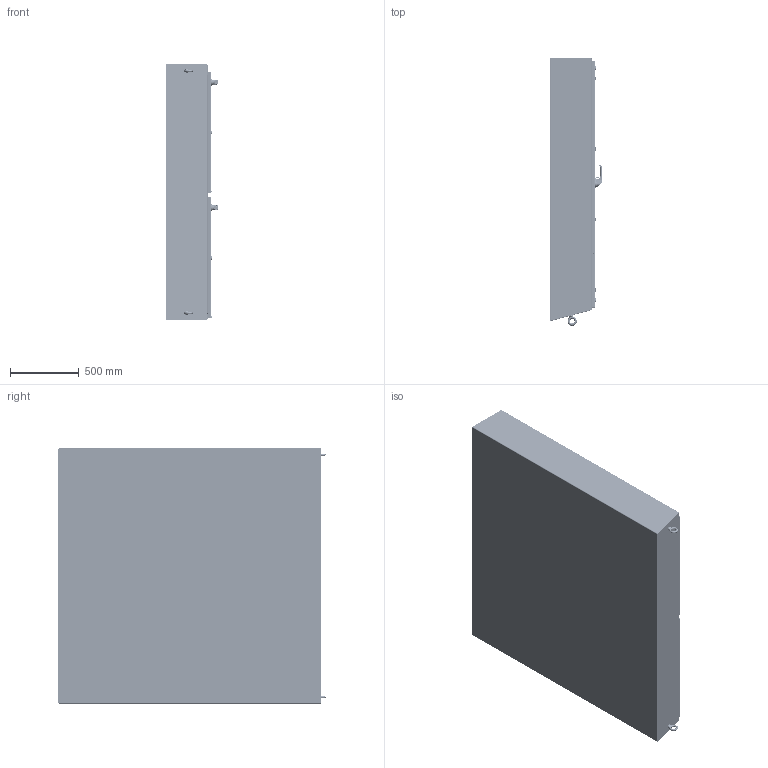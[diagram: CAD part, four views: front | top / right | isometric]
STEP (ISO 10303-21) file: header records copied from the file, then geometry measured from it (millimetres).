
FILE_DESCRIPTION((''),'2;1');
FILE_NAME('MODEL-138_ASM','2023-11-30T12:57:34',('joshi'),('SAGINAW CONTROL & ENGINEERING'),'CREO PARAMETRIC BY PTC INC, 2021284','CREO PARAMETRIC BY PTC INC, 2021284','');
FILE_SCHEMA(('AUTOMOTIVE_DESIGN { 1 0 10303 214 1 1 1 1 }'));
Length unit declared in the file: inch
Products named in the file (110): MODEL-138-BTM; MODEL-138-RS; MODEL-138-LS; MODEL-138-BCK; MODEL-138-TP; MODEL-138-MN-DR; 100837; 111267; 100882; 126935_HANDLE; 126935_HANDLE_INSERT; 126935_SHAFT_CAM; 126935_ADAPTER_CAM; 126935_NUT_CAM; 126935_BASE; 126935_PADLOCK_CATCH; 126935_SCREW_SMALL; 126935_NUT_MOUNTING_SMALL; 126935_NUT_MOUNTING_LARGE; 126935_ASM; 102237; 100030; 102237_ASM; MODEL-138-ROD-UPR-MD; 128146; 128145; 128144; 102482; MODEL-138-ROD-UPR-MD_ASM; 128143; 112504; MODEL-138-ROD-LWR-MD; MODEL-138-ROD-LWR-MD_ASM; MODEL-138-PR-GSKT-MD; 113885_SHAFT; 113885_INSERT; 113885_CAM_30MM; 113885_NUT; 113885_SCREW; 113885_ASM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
Assembly tree (242 placements, depth 4):
  MODEL-138_ASM
    MODEL-138-BTM
    MODEL-138-RS
    MODEL-138-LS
    MODEL-138-BCK
    MODEL-138-TP
    MODEL-138-M-DOOR-ASSY_ASM
      MODEL-138-MN-DR
      100837  x7
      111267
      100882  x12
      126935_ASM
        126935_HANDLE
        126935_HANDLE_INSERT
        126935_SHAFT_CAM
        126935_ADAPTER_CAM
        126935_NUT_CAM
        126935_BASE
        126935_PADLOCK_CATCH
        126935_SCREW_SMALL
        126935_NUT_MOUNTING_SMALL
        126935_NUT_MOUNTING_LARGE
      102237_ASM
        102237
        100030  x2
      MODEL-138-ROD-UPR-MD_ASM
        MODEL-138-ROD-UPR-MD
        128146
        128145
        128144
        102482  x2
      128143  x2
      112504  x2
      MODEL-138-ROD-LWR-MD_ASM
        MODEL-138-ROD-LWR-MD
        128146
        128145
        128144
        102482  x2
      MODEL-138-PR-GSKT-MD
      113885_ASM  x2
        113885_SHAFT
        113885_INSERT
        113885_CAM_30MM
        113885_NUT
        113885_SCREW
      128258_ASM  x4
        128258
      126395  x4
      102483  x4
      101383_ASM  x4
        101383
        101383-STUD
      101221  x4
    MODEL-138-S-DOOR-ASSY_ASM
      MODEL-138-SEC-DR
      100837  x3
      126937_ASM
        126937_HANDLE
        126937_HANDLE_INSERT
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Bounding box: 382.17 x 1942.48 x 1854.2 mm (x, y, z)
Volume: 39690709 mm3; surface area: 28256785 mm2
Topology: 283 solids, 283 shells, 24527 faces, 62806 edges, 38972 vertices
Faces by surface type: plane 8905, cylinder 6654, bspline 4941, torus 1703, cone 1291, sphere 712, extrusion 321
Entity records: 614697 total; most frequent: CARTESIAN_POINT 248295, ORIENTED_EDGE 54014, DIRECTION 50865, PRESENTATION_STYLE_ASSIGNMENT 28919, STYLED_ITEM 27884, EDGE_CURVE 27007, CURVE_STYLE 26797, AXIS2_PLACEMENT_3D 18868
